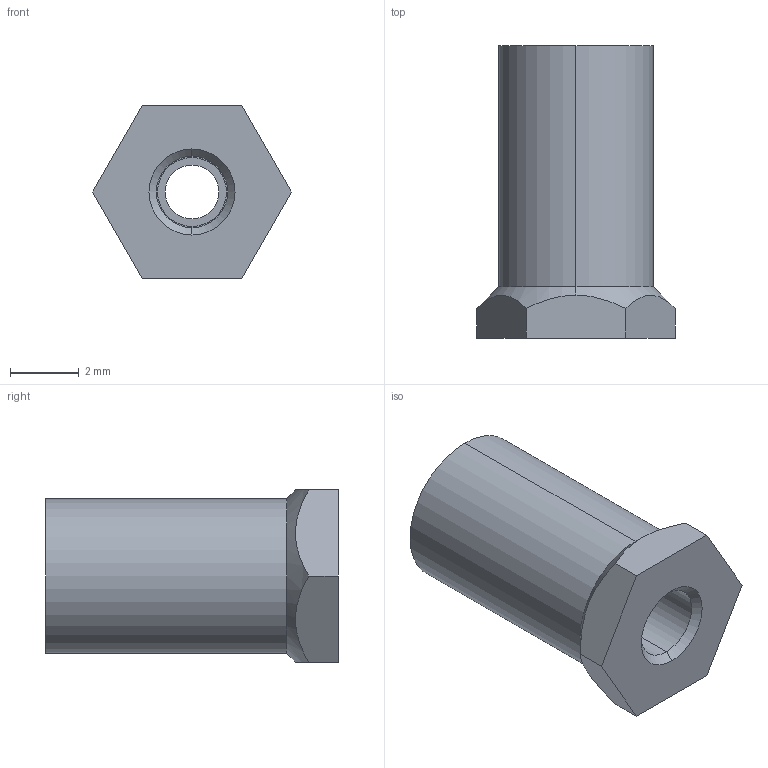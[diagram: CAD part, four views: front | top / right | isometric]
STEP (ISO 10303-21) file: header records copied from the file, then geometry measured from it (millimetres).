
FILE_DESCRIPTION(/* description */ ('VariCAD 2010-2.03 AP-203'),/* implementation_level */ '2;1');
FILE_NAME(/* name */ '0353-20-03',/* time_stamp */ '2010-03-26T11:51:27-06:00',/* author */ (''),/* organization */ (''),/* preprocessor_version */ 'ST-DEVELOPER v12',/* originating_system */ 'VariCAD 2010-2.03; kernel version (20100102)',/* authorisation */ '');
FILE_SCHEMA (('CONFIG_CONTROL_DESIGN'));
Length unit declared in the file: millimetre
Products named in the file (1): Part
Bounding box: 5.77 x 8.5 x 5 mm (x, y, z)
Volume: 118.1 mm3; surface area: 328.6 mm2
Topology: 3 solids, 3 shells, 34 faces, 74 edges, 46 vertices
Faces by surface type: cylinder 16, plane 12, cone 6
Entity records: 1024 total; most frequent: CARTESIAN_POINT 202, DIRECTION 174, ORIENTED_EDGE 148, EDGE_CURVE 74, AXIS2_PLACEMENT_3D 70, VERTEX_POINT 46, EDGE_LOOP 40, ADVANCED_FACE 34
